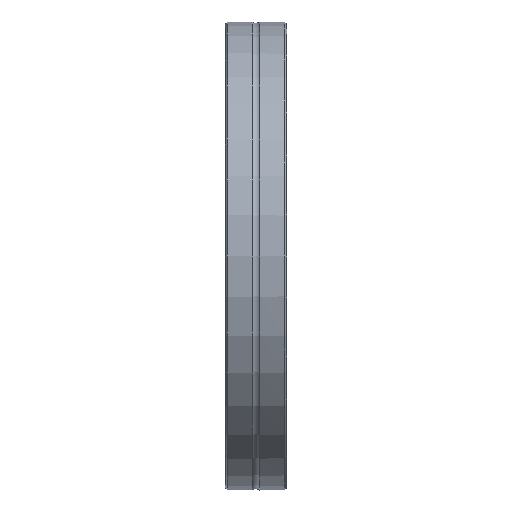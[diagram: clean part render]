
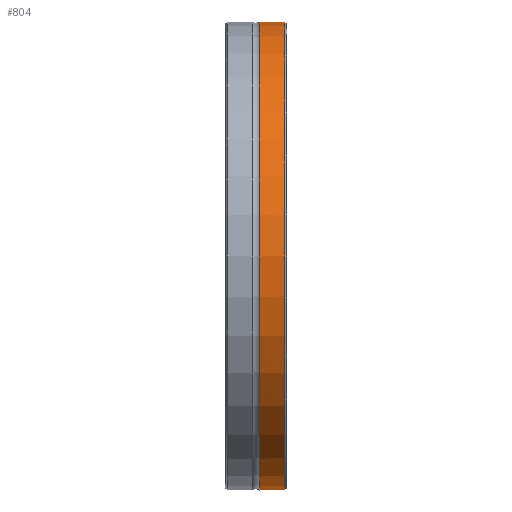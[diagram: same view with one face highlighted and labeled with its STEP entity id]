
A CAD part, front view. The second image highlights one B-rep face of the part: STEP entity #804.
In plain terms, the highlighted cylindrical face has radius 76 mm (diameter 152 mm), a full revolution.
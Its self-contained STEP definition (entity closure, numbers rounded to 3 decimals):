
#726=CARTESIAN_POINT('',(-0.6,75.992,-1.077));
#727=VERTEX_POINT('',#726);
#748=CARTESIAN_POINT('',(-0.6,75.992,1.077));
#749=VERTEX_POINT('',#748);
#759=CARTESIAN_POINT('',(-0.6,0.,0.0));
#760=DIRECTION('',(1.0,0.0,0.0));
#761=DIRECTION('',(0.0,-1.0,0.0));
#762=AXIS2_PLACEMENT_3D('',#759,#760,#761);
#763=CIRCLE('',#762,76.);
#764=EDGE_CURVE('',#749,#727,#763,.T.);
#769=CARTESIAN_POINT('',(-4.4,0.,0.0));
#770=DIRECTION('',(1.0,0.,0.0));
#771=DIRECTION('',(0.0,1.0,0.0));
#772=AXIS2_PLACEMENT_3D('',#769,#770,#771);
#773=CYLINDRICAL_SURFACE('',#772,76.);
#774=ORIENTED_EDGE('',*,*,#764,.F.);
#775=CARTESIAN_POINT('',(-0.8,76.0,0.));
#776=VERTEX_POINT('',#775);
#777=CARTESIAN_POINT('',(-0.6,75.992,1.077));
#778=CARTESIAN_POINT('',(-0.734,75.997,0.728));
#779=CARTESIAN_POINT('',(-0.8,76.0,0.353));
#780=CARTESIAN_POINT('',(-0.8,76.0,0.));
#781=B_SPLINE_CURVE_WITH_KNOTS('',3,(#777,#778,#779,#780),.UNSPECIFIED.,.F.,.U.,(4,4),(1.25,1.356),.UNSPECIFIED.);
#782=EDGE_CURVE('',#749,#776,#781,.T.);
#783=ORIENTED_EDGE('',*,*,#782,.T.);
#784=CARTESIAN_POINT('',(-0.8,76.0,0.));
#785=CARTESIAN_POINT('',(-0.8,76.0,-0.353));
#786=CARTESIAN_POINT('',(-0.734,75.997,-0.728));
#787=CARTESIAN_POINT('',(-0.6,75.992,-1.077));
#788=B_SPLINE_CURVE_WITH_KNOTS('',3,(#784,#785,#786,#787),.UNSPECIFIED.,.F.,.U.,(4,4),(1.356,1.462),.UNSPECIFIED.);
#789=EDGE_CURVE('',#776,#727,#788,.T.);
#790=ORIENTED_EDGE('',*,*,#789,.T.);
#791=EDGE_LOOP('',(#774,#783,#790));
#792=FACE_OUTER_BOUND('',#791,.T.);
#793=CARTESIAN_POINT('',(-8.8,76.,0.0));
#794=VERTEX_POINT('',#793);
#795=CARTESIAN_POINT('',(-8.8,0.,0.0));
#796=DIRECTION('',(1.0,0.0,0.0));
#797=DIRECTION('',(0.0,1.0,0.0));
#798=AXIS2_PLACEMENT_3D('',#795,#796,#797);
#799=CIRCLE('',#798,76.);
#800=EDGE_CURVE('',#794,#794,#799,.T.);
#801=ORIENTED_EDGE('',*,*,#800,.T.);
#802=EDGE_LOOP('',(#801));
#803=FACE_BOUND('',#802,.T.);
#804=ADVANCED_FACE('',(#792,#803),#773,.T.);
